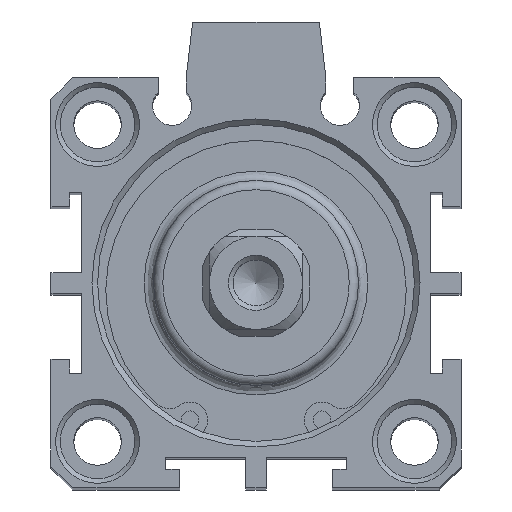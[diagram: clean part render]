
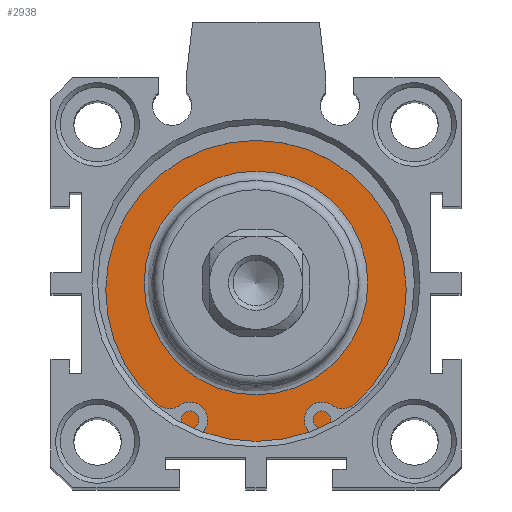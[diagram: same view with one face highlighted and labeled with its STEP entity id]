
A CAD part, top view. The second image highlights one B-rep face of the part: STEP entity #2938.
In plain terms, the highlighted planar face has unit normal (0, 0, 1).
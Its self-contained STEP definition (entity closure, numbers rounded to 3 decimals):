
#2887=CARTESIAN_POINT('',(-3.726,11.88,120.3));
#2888=VERTEX_POINT('',#2887);
#2889=CARTESIAN_POINT('',(-3.726,-0.12,120.3));
#2890=DIRECTION('',(0.0,0.0,1.0));
#2891=DIRECTION('',(0.0,-1.0,0.0));
#2892=AXIS2_PLACEMENT_3D('',#2889,#2890,#2891);
#2893=CIRCLE('',#2892,12.);
#2894=EDGE_CURVE('',#2888,#2888,#2893,.T.);
#2919=CARTESIAN_POINT('',(-3.726,13.88,120.3));
#2920=DIRECTION('',(0.0,0.0,1.0));
#2921=DIRECTION('',(1.0,0.0,0.0));
#2922=AXIS2_PLACEMENT_3D('',#2919,#2920,#2921);
#2923=PLANE('',#2922);
#2924=CARTESIAN_POINT('',(-3.726,16.88,120.3));
#2925=VERTEX_POINT('',#2924);
#2926=CARTESIAN_POINT('',(-3.726,-0.12,120.3));
#2927=DIRECTION('',(0.0,0.0,-1.0));
#2928=DIRECTION('',(0.0,1.0,0.0));
#2929=AXIS2_PLACEMENT_3D('',#2926,#2927,#2928);
#2930=CIRCLE('',#2929,17.);
#2931=EDGE_CURVE('',#2925,#2925,#2930,.T.);
#2932=ORIENTED_EDGE('',*,*,#2931,.F.);
#2933=EDGE_LOOP('',(#2932));
#2934=FACE_OUTER_BOUND('',#2933,.T.);
#2935=ORIENTED_EDGE('',*,*,#2894,.F.);
#2936=EDGE_LOOP('',(#2935));
#2937=FACE_BOUND('',#2936,.T.);
#2938=ADVANCED_FACE('',(#2934,#2937),#2923,.T.);
